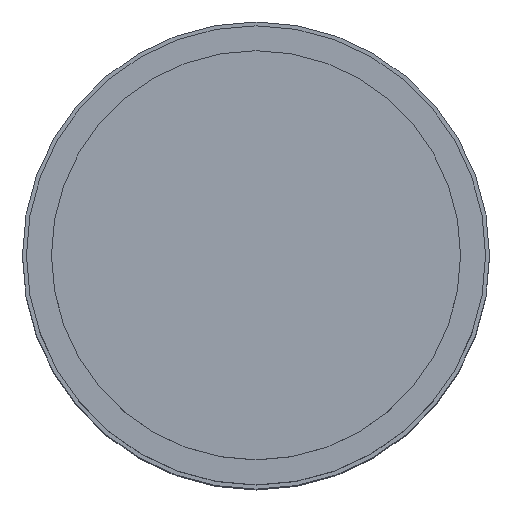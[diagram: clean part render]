
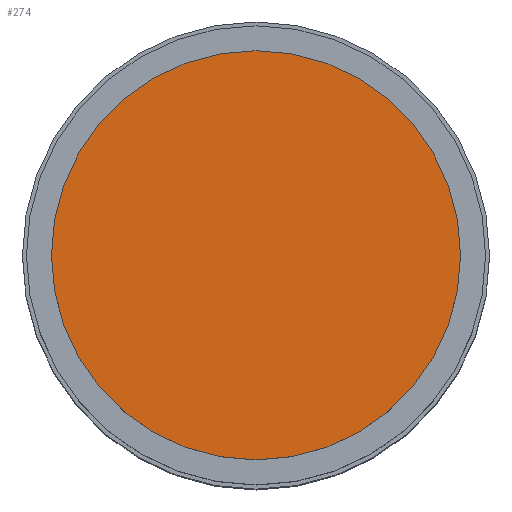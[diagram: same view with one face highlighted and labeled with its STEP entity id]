
A CAD part, top view. The second image highlights one B-rep face of the part: STEP entity #274.
In plain terms, the highlighted planar face has unit normal (0, 0, 1).
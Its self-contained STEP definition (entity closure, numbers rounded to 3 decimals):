
#67 = CARTESIAN_POINT ( 'NONE',  ( -12.7, 0., 4. ) ) ;
#82 = DIRECTION ( 'NONE',  ( 1., 0., 0. ) ) ;
#150 = CARTESIAN_POINT ( 'NONE',  ( 0., 0., 4. ) ) ;
#198 = VERTEX_POINT ( 'NONE', #67 ) ;
#249 = DIRECTION ( 'NONE',  ( -1., 0., 0. ) ) ;
#272 = EDGE_CURVE ( 'NONE', #961, #198, #990, .T. ) ;
#274 = ADVANCED_FACE ( 'NONE', ( #779 ), #726, .T. ) ;
#371 = CIRCLE ( 'NONE', #475, 12.7 ) ;
#387 = EDGE_CURVE ( 'NONE', #198, #961, #371, .T. ) ;
#391 = CARTESIAN_POINT ( 'NONE',  ( 12.7, 0., 4. ) ) ;
#475 = AXIS2_PLACEMENT_3D ( 'NONE', #150, #793, #249 ) ;
#530 = EDGE_LOOP ( 'NONE', ( #677, #670 ) ) ;
#542 = DIRECTION ( 'NONE',  ( 0., 0., -1. ) ) ;
#632 = AXIS2_PLACEMENT_3D ( 'NONE', #1095, #542, #1181 ) ;
#640 = DIRECTION ( 'NONE',  ( 0., 0., 1. ) ) ;
#670 = ORIENTED_EDGE ( 'NONE', *, *, #272, .F. ) ;
#677 = ORIENTED_EDGE ( 'NONE', *, *, #387, .F. ) ;
#726 = PLANE ( 'NONE',  #814 ) ;
#779 = FACE_OUTER_BOUND ( 'NONE', #530, .T. ) ;
#793 = DIRECTION ( 'NONE',  ( 0., 0., -1. ) ) ;
#814 = AXIS2_PLACEMENT_3D ( 'NONE', #996, #640, #82 ) ;
#961 = VERTEX_POINT ( 'NONE', #391 ) ;
#990 = CIRCLE ( 'NONE', #632, 12.7 ) ;
#996 = CARTESIAN_POINT ( 'NONE',  ( 0., 12.7, 4. ) ) ;
#1095 = CARTESIAN_POINT ( 'NONE',  ( 0., 0., 4. ) ) ;
#1181 = DIRECTION ( 'NONE',  ( -1., 0., 0. ) ) ;
